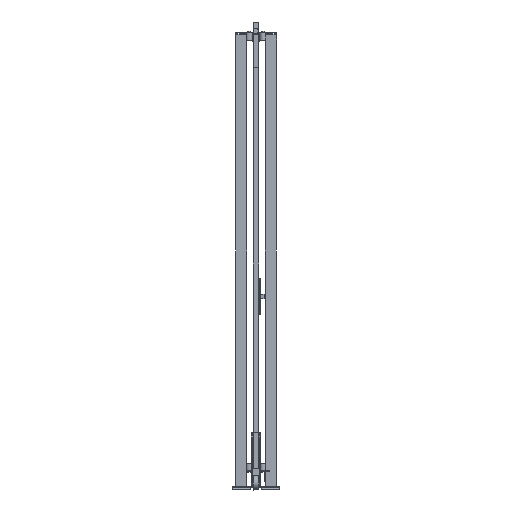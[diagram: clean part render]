
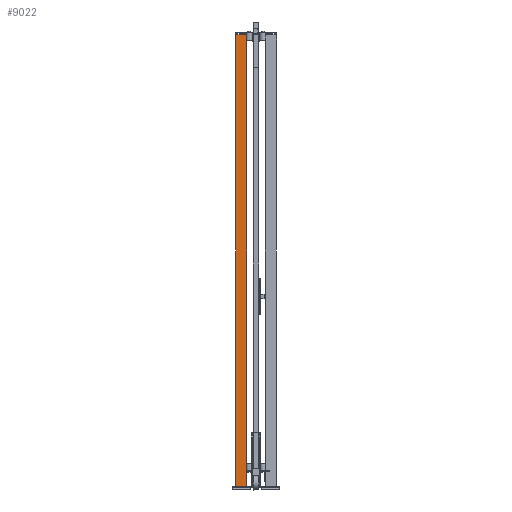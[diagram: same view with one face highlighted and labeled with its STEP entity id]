
A CAD part, left-side view. The second image highlights one B-rep face of the part: STEP entity #9022.
In plain terms, the highlighted planar face has unit normal (-1, 0, 0) as drawn and (0, 1, 0) by its records, which use the part's own axes.
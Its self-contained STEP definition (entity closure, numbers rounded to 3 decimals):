
#876=FACE_OUTER_BOUND('',#1554,.T.);
#1554=EDGE_LOOP('',(#5464,#5465,#5466,#5467));
#2305=VERTEX_POINT('',#18865);
#2306=VERTEX_POINT('',#18867);
#2308=VERTEX_POINT('',#18873);
#2311=VERTEX_POINT('',#18878);
#3577=EDGE_CURVE('',#2305,#2306,#10581,.T.);
#3583=EDGE_CURVE('',#2311,#2308,#10587,.T.);
#3586=EDGE_CURVE('',#2306,#2311,#10590,.T.);
#3587=EDGE_CURVE('',#2305,#2308,#10591,.T.);
#5464=ORIENTED_EDGE('',*,*,#3587,.T.);
#5465=ORIENTED_EDGE('',*,*,#3583,.F.);
#5466=ORIENTED_EDGE('',*,*,#3586,.F.);
#5467=ORIENTED_EDGE('',*,*,#3577,.F.);
#8416=PLANE('',#13603);
#9022=ADVANCED_FACE('',(#876),#8416,.F.);
#10581=LINE('',#18868,#12209);
#10587=LINE('',#18880,#12215);
#10590=LINE('',#18885,#12218);
#10591=LINE('',#18887,#12219);
#12209=VECTOR('',#14951,1.);
#12215=VECTOR('',#14959,1.);
#12218=VECTOR('',#14966,1.);
#12219=VECTOR('',#14969,1.);
#13603=AXIS2_PLACEMENT_3D('',#18886,#14967,#14968);
#14951=DIRECTION('',(-1.,0.,0.));
#14959=DIRECTION('',(1.,0.,0.));
#14966=DIRECTION('',(0.,0.,-1.));
#14967=DIRECTION('center_axis',(0.,-1.,0.));
#14968=DIRECTION('ref_axis',(0.,0.,-1.));
#14969=DIRECTION('',(0.,0.,-1.));
#18865=CARTESIAN_POINT('',(30.,30.,2520.));
#18867=CARTESIAN_POINT('',(-30.,30.,2520.));
#18868=CARTESIAN_POINT('',(0.,30.,2520.));
#18873=CARTESIAN_POINT('',(30.,30.,20.));
#18878=CARTESIAN_POINT('',(-30.,30.,20.));
#18880=CARTESIAN_POINT('',(0.,30.,20.));
#18885=CARTESIAN_POINT('',(-30.,30.,1270.));
#18886=CARTESIAN_POINT('Origin',(0.,30.,
1270.));
#18887=CARTESIAN_POINT('',(30.,30.,1270.));
